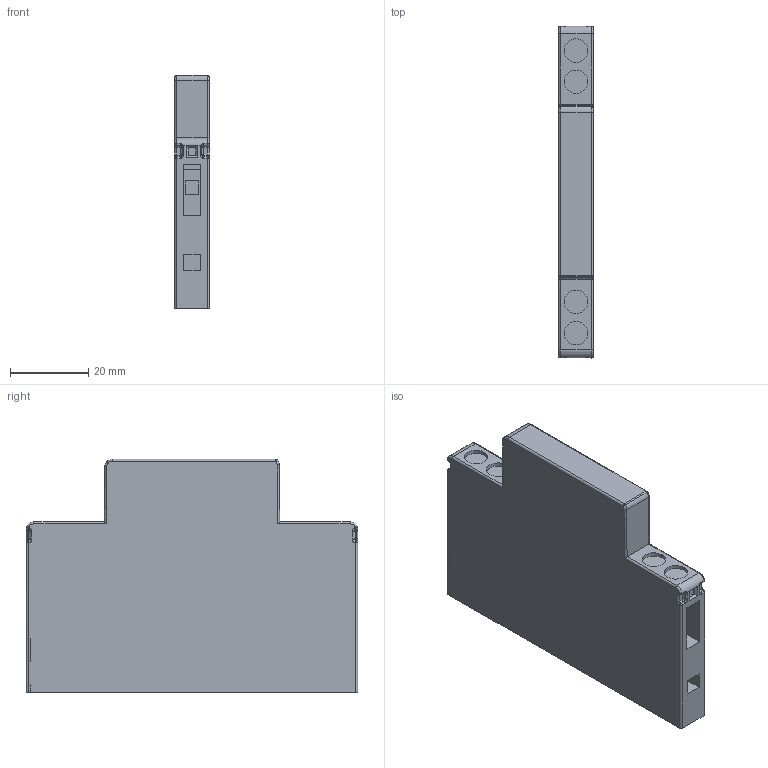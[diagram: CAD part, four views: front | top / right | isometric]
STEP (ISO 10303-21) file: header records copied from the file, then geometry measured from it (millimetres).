
FILE_DESCRIPTION (( 'STEP AP214' ), '1' );
FILE_NAME ('RIC-AUXzz.STEP', '2024-04-15T09:04:29', ( '' ), ( '' ), 'SwSTEP 2.0', 'SolidWorks 2022', '' );
FILE_SCHEMA (( 'AUTOMOTIVE_DESIGN' ));
Length unit declared in the file: millimetre
Products named in the file (1): RIC-AUXzz
Bounding box: 8.9 x 85 x 59.9 mm (x, y, z)
Volume: 37491.1 mm3; surface area: 13046.7 mm2
Topology: 1 solids, 1 shells, 242 faces, 600 edges, 360 vertices
Faces by surface type: plane 120, cylinder 76, torus 24, bspline 20, sphere 2
Entity records: 7947 total; most frequent: CARTESIAN_POINT 2398, ORIENTED_EDGE 1180, DIRECTION 1090, EDGE_CURVE 590, VECTOR 368, LINE 368, AXIS2_PLACEMENT_3D 361, VERTEX_POINT 360
